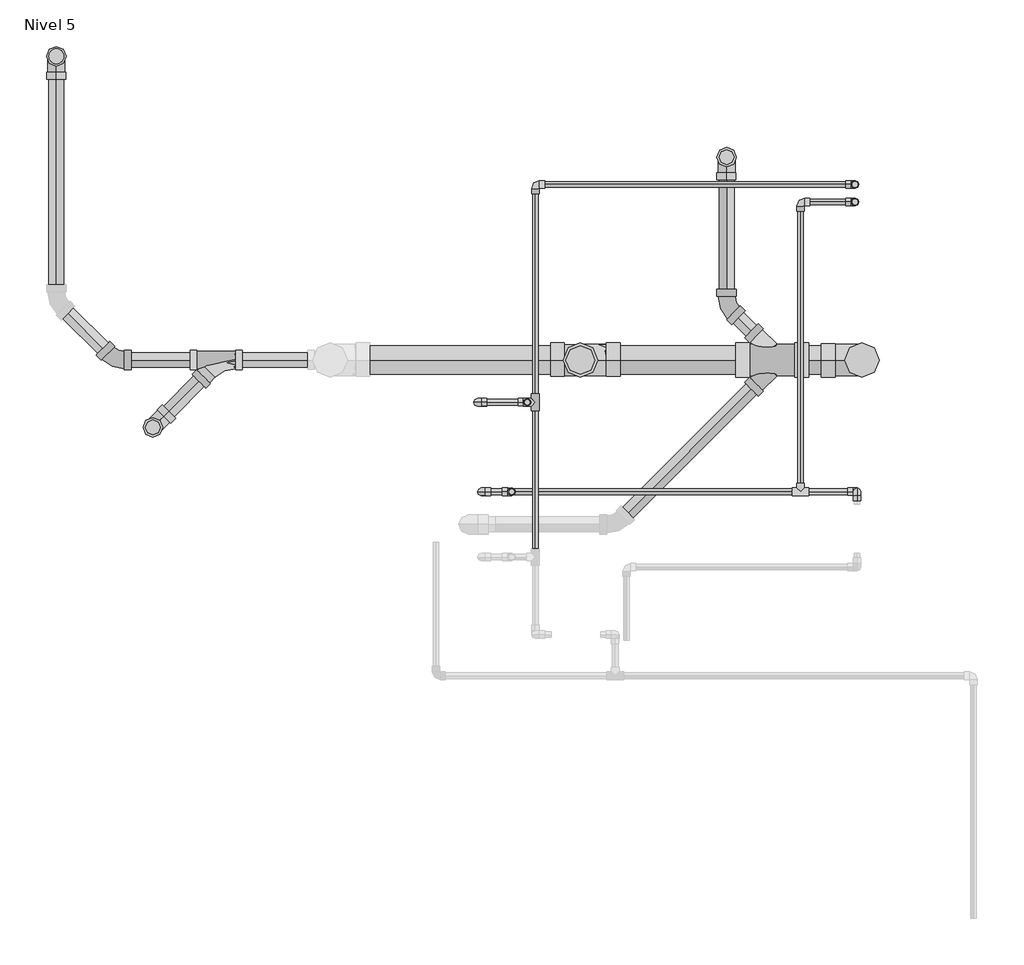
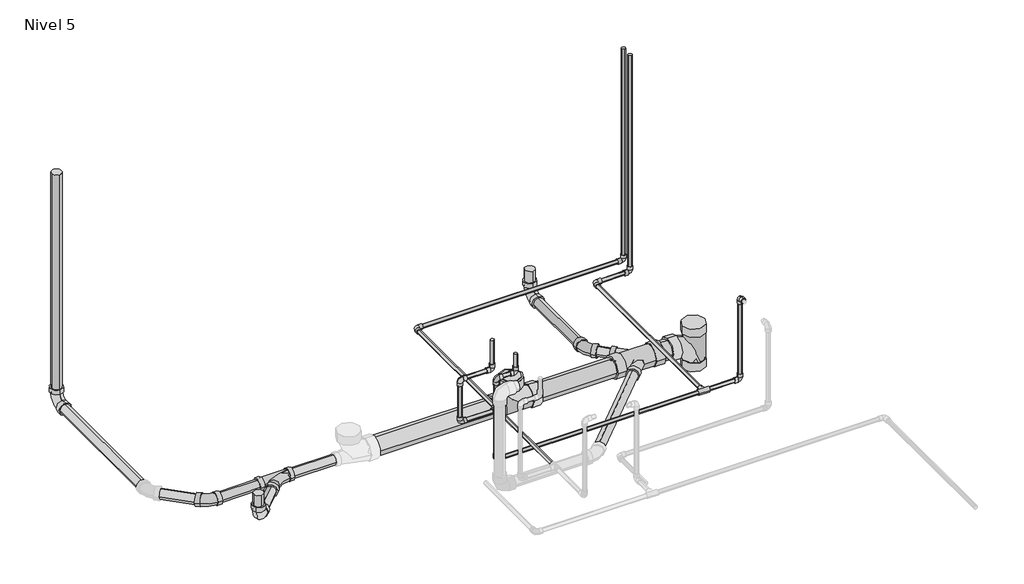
# One storey, part 6 of 6: 32 pipe segments, 23 pipe fittings.
"""IFC4 building model written with IfcOpenShell, lengths in millimetres."""

from ifc_helpers import new_model, si_unit, point, frame, frame_2d, origin, place, context, project, spatial, circle_curve, trimmed, segment, composite_curve, outline, extrude, transform, mapped, element, save
from components import pipe_fitting_ab418b84, pipe_fitting_0163322b, pipe_fitting_2a8dfbef, pipe_fitting_815a0334, m_codo_pvc_serie_40_9ad74631, m_codo_pvc_serie_40_ba05d404, m_codo_pvc_serie_40_dwv1_5c0ec739, m_codo_pvc_serie_40_dwv1_6f1a2495

model = new_model("IFC4")

# Units and contexts
model_context = context("Model", 3, world=origin())
ifc_project = project(units=[si_unit("LENGTHUNIT", "METRE", prefix="MILLI")], contexts=[model_context])

# Site, building, storey
site = spatial("IfcSite", under=ifc_project)
building = spatial("IfcBuilding", under=site)
storey = spatial("IfcBuildingStorey", under=building, Name="Nivel 5", Elevation=10750.0)

# Pipe fittings
placement = place(None, origin())
pipe_fitting_shape = pipe_fitting_ab418b84(model_context)
element("IfcPipeFitting", 1, ObjectType="M_Te - PVC - Serie 40 : Estándar", at=placement, inside=storey, context=model_context, shape_type="MappedRepresentation", body=[
    mapped(pipe_fitting_shape, transform((4675.7909326, 16338.1215351, 10700.0), x_axis=(0.0, -1.0, 0.0), y_axis=(1.0, 0.0, 0.0), z_axis=(0.0, 0.0, 1.0))),
])
element("IfcPipeFitting", 2, ObjectType="M_Te - PVC - Serie 40 : Estándar", at=placement, inside=storey, context=model_context, shape_type="MappedRepresentation", body=[
    mapped(pipe_fitting_shape, transform((5638.3695091, 16013.3784167, 10670.0), x_axis=(-1.0, 0.0, 0.0), y_axis=(0.0, -1.0, 0.0), z_axis=(0.0, 0.0, 1.0))),
])
pipe_fitting_2_shape = pipe_fitting_0163322b(model_context)
element("IfcPipeFitting", 3, ObjectType="M_Sanitario con te de reducción - PVC - Serie 40 - DWV : Estándar", at=placement, inside=storey, context=model_context, shape_type="MappedRepresentation", body=[
    mapped(pipe_fitting_2_shape, transform((3531.9945304, 16491.6039726, 10600.0), x_axis=(-1.0, 0.0, 0.0), y_axis=(0.0, 1.0, 0.0), z_axis=(0.0, 0.0, -1.0))),
])
pipe_fitting_3_shape = pipe_fitting_2a8dfbef(model_context)
element("IfcPipeFitting", 4, ObjectType="M_Sanitario con te de reducción - PVC - Serie 40 - DWV : Estándar", at=placement, inside=storey, context=model_context, shape_type="MappedRepresentation", body=[
    mapped(pipe_fitting_3_shape, transform((4839.2491598, 16491.6039726, 10600.0), x_axis=(-1.0, 0.0, 0.0), y_axis=(0.0, 0.0, -1.0), z_axis=(0.0, -1.0, 0.0))),
])
element("IfcPipeFitting", 5, ObjectType="M_Sanitario con te de reducción - PVC - Serie 40 - DWV : Estándar", at=placement, inside=storey, context=model_context, shape_type="MappedRepresentation", body=[
    mapped(pipe_fitting_3_shape, transform((5860.8695091, 16491.6039726, 10600.0), x_axis=(0.0, 0.0, 1.0), y_axis=(1.0, 0.0, 0.0), z_axis=(0.0, 1.0, 0.0))),
])
pipe_fitting_4_shape = pipe_fitting_815a0334(model_context)
element("IfcPipeFitting", 6, ObjectType="M_Sanitario con te doble con reducción - PVC - Serie 40 - DWV : Estándar", at=placement, inside=storey, context=model_context, shape_type="MappedRepresentation", body=[
    mapped(pipe_fitting_4_shape, transform((5565.9253466, 16491.6039726, 10600.0), x_axis=(-1.0, 0.0, 0.0), y_axis=(0.0, 1.0, 0.0), z_axis=(0.0, 0.0, -1.0))),
])
m_codo_pvc_serie_40_shape = m_codo_pvc_serie_40_9ad74631(model_context)
element("IfcPipeFitting", 7, ObjectType="M_Codo - PVC - Serie 40 : Estándar", at=placement, inside=storey, context=model_context, shape_type="MappedRepresentation", body=[
    mapped(m_codo_pvc_serie_40_shape, transform((4646.2723463, 16338.1215351, 10950.0), x_axis=(0.0, 0.0, -1.0), y_axis=(-1.0, 0.0, 0.0), z_axis=(0.0, 1.0, 0.0))),
])
element("IfcPipeFitting", 8, ObjectType="M_Codo - PVC - Serie 40 : Estándar", at=placement, inside=storey, context=model_context, shape_type="MappedRepresentation", body=[
    mapped(m_codo_pvc_serie_40_shape, transform((4466.2723463, 16338.1215351, 10950.0), x_axis=(-1.0, 0.0, 0.0), y_axis=(0.0, 0.0, -1.0), z_axis=(0.0, -1.0, 0.0))),
])
element("IfcPipeFitting", 9, ObjectType="M_Codo - PVC - Serie 40 : Estándar", at=placement, inside=storey, context=model_context, shape_type="MappedRepresentation", body=[
    mapped(m_codo_pvc_serie_40_shape, transform((4466.2723463, 16338.1215351, 10700.0), x_axis=(0.0, 0.0, -1.0), y_axis=(1.0, 0.0, 0.0), z_axis=(0.0, -1.0, 0.0))),
])
element("IfcPipeFitting", 10, ObjectType="M_Codo - PVC - Serie 40 : Estándar", at=placement, inside=storey, context=model_context, shape_type="MappedRepresentation", body=[
    mapped(m_codo_pvc_serie_40_shape, transform((4675.7909326, 17128.5816914, 10700.0), x_axis=(-1.0, 0.0, 0.0), y_axis=(0.0, -1.0, 0.0), z_axis=(0.0, 0.0, 1.0))),
])
element("IfcPipeFitting", 11, ObjectType="M_Codo - PVC - Serie 40 : Estándar", at=placement, inside=storey, context=model_context, shape_type="MappedRepresentation", body=[
    mapped(m_codo_pvc_serie_40_shape, transform((5835.7909326, 17128.5816914, 10700.0), x_axis=(1.0, 0.0, 0.0), y_axis=(0.0, 0.0, 1.0), z_axis=(0.0, -1.0, 0.0))),
])
element("IfcPipeFitting", 12, ObjectType="M_Codo - PVC - Serie 40 : Estándar", at=placement, inside=storey, context=model_context, shape_type="MappedRepresentation", body=[
    mapped(m_codo_pvc_serie_40_shape, transform((5843.3695091, 16013.3784167, 11150.0), x_axis=(0.0, 1.0, 0.0), y_axis=(0.0, 0.0, -1.0), z_axis=(-1.0, 0.0, 0.0))),
])
element("IfcPipeFitting", 13, ObjectType="M_Codo - PVC - Serie 40 : Estándar", at=placement, inside=storey, context=model_context, shape_type="MappedRepresentation", body=[
    mapped(m_codo_pvc_serie_40_shape, transform((5843.3695091, 16013.3784167, 10670.0), x_axis=(0.0, 0.0, -1.0), y_axis=(-1.0, 0.0, 0.0), z_axis=(0.0, 1.0, 0.0))),
])
element("IfcPipeFitting", 14, ObjectType="M_Codo - PVC - Serie 40 : Estándar", at=placement, inside=storey, context=model_context, shape_type="MappedRepresentation", body=[
    mapped(m_codo_pvc_serie_40_shape, transform((5638.3695091, 17065.0892611, 10670.0), x_axis=(-1.0, 0.0, 0.0), y_axis=(0.0, -1.0, 0.0), z_axis=(0.0, 0.0, 1.0))),
])
element("IfcPipeFitting", 15, ObjectType="M_Codo - PVC - Serie 40 : Estándar", at=placement, inside=storey, context=model_context, shape_type="MappedRepresentation", body=[
    mapped(m_codo_pvc_serie_40_shape, transform((5835.8695091, 17065.0892611, 10670.0), x_axis=(1.0, 0.0, 0.0), y_axis=(0.0, 0.0, 1.0), z_axis=(0.0, -1.0, 0.0))),
])
element("IfcPipeFitting", 16, ObjectType="M_Codo - PVC - Serie 40 : Estándar", at=placement, inside=storey, context=model_context, shape_type="MappedRepresentation", body=[
    mapped(m_codo_pvc_serie_40_shape, transform((4479.8538958, 16013.3784167, 10670.0), x_axis=(0.0, 0.0, -1.0), y_axis=(1.0, 0.0, 0.0), z_axis=(0.0, -1.0, 0.0))),
])
m_codo_pvc_serie_40_2_shape = m_codo_pvc_serie_40_ba05d404(model_context)
element("IfcPipeFitting", 17, ObjectType="M_Codo - PVC - Serie 40 : Estándar", at=placement, inside=storey, context=model_context, shape_type="MappedRepresentation", body=[
    mapped(m_codo_pvc_serie_40_2_shape, transform((4589.8538958, 16013.3784167, 11150.0), x_axis=(0.0, 0.0, -1.0), y_axis=(1.0, 0.0, 0.0), z_axis=(0.0, -1.0, 0.0))),
])
element("IfcPipeFitting", 18, ObjectType="M_Codo - PVC - Serie 40 : Estándar", at=placement, inside=storey, context=model_context, shape_type="MappedRepresentation", body=[
    mapped(m_codo_pvc_serie_40_2_shape, transform((4479.8538958, 16013.3784167, 11150.0), x_axis=(-1.0, 0.0, 0.0), y_axis=(0.0, 0.0, 1.0), z_axis=(0.0, 1.0, 0.0))),
])
m_codo_pvc_serie_40_dwv1_shape = m_codo_pvc_serie_40_dwv1_5c0ec739(model_context)
element("IfcPipeFitting", 19, ObjectType="M_Codo - PVC - Serie 40 - DWV1 : Estándar 2", at=placement, inside=storey, context=model_context, shape_type="MappedRepresentation", body=[
    mapped(m_codo_pvc_serie_40_dwv1_shape, transform((2937.3500424, 17593.736007, 10600.0), x_axis=(0.0, 1.0, 0.0), y_axis=(0.0, 0.0, 1.0), z_axis=(1.0, 0.0, 0.0))),
])
element("IfcPipeFitting", 20, ObjectType="M_Codo - PVC - Serie 40 - DWV1 : Estándar 2", at=placement, inside=storey, context=model_context, shape_type="MappedRepresentation", body=[
    mapped(m_codo_pvc_serie_40_dwv1_shape, transform((3287.4758347, 16247.0852769, 10600.0), x_axis=(-0.7071067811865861, -0.7071067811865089, 0.0), y_axis=(0.0, 0.0, 1.0), z_axis=(-0.7071067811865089, 0.7071067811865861, 0.0))),
])
element("IfcPipeFitting", 21, ObjectType="M_Codo - PVC - Serie 40 - DWV1 : Estándar 2", at=placement, inside=storey, context=model_context, shape_type="MappedRepresentation", body=[
    mapped(m_codo_pvc_serie_40_dwv1_shape, transform((5369.9298773, 17227.599442, 10600.0), x_axis=(0.0, 1.0, 0.0), y_axis=(0.0, 0.0, 1.0), z_axis=(1.0, 0.0, 0.0))),
])
m_codo_pvc_serie_40_dwv1_2_shape = m_codo_pvc_serie_40_dwv1_6f1a2495(model_context)
element("IfcPipeFitting", 22, ObjectType="M_Codo - PVC - Serie 40 - DWV1 : Estándar 2", at=placement, inside=storey, context=model_context, shape_type="MappedRepresentation", body=[
    mapped(m_codo_pvc_serie_40_dwv1_2_shape, transform((3149.4820768, 16491.6039726, 10600.0), x_axis=(0.707106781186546, -0.7071067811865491, 0.0), y_axis=(0.7071067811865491, 0.707106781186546, 0.0), z_axis=(0.0, 0.0, 1.0))),
])
element("IfcPipeFitting", 23, ObjectType="M_Codo - PVC - Serie 40 - DWV1 : Estándar 2", at=placement, inside=storey, context=model_context, shape_type="MappedRepresentation", body=[
    mapped(m_codo_pvc_serie_40_dwv1_2_shape, transform((5369.9298773, 16687.599442, 10600.0), x_axis=(0.0, -1.0, 0.0), y_axis=(1.0, 0.0, 0.0), z_axis=(0.0, 0.0, 1.0))),
])

# Pipe segments
element("IfcPipeSegment", 24, ObjectType="Tuberia PVC Agua Fria", at=placement, inside=storey, context=model_context, shape_type="SweptSolid", body=[
    extrude(outline(composite_curve([segment(trimmed(circle_curve(frame_2d((16338.1215351, 10950.0)), 10.31875), [point((16348.4402851, 10950.0))], [point((16338.1215351, 10939.68125))], False, "CARTESIAN"), True, "CONTINUOUS"), segment(trimmed(circle_curve(frame_2d((16338.1215351, 10950.0)), 10.31875), [point((16338.1215351, 10939.68125))], [point((16327.8027851, 10950.0))], False, "CARTESIAN"), True, "CONTINUOUS"), segment(trimmed(circle_curve(frame_2d((16338.1215351, 10950.0)), 10.31875), [point((16327.8027851, 10950.0))], [point((16338.1215351, 10960.31875))], False, "CARTESIAN"), True, "CONTINUOUS"), segment(trimmed(circle_curve(frame_2d((16338.1215351, 10950.0)), 10.31875), [point((16338.1215351, 10960.31875))], [point((16348.4402851, 10950.0))], False, "CARTESIAN"), True, "CONTINUOUS")], self_intersect=False)), frame((4499.6733463, 0.0, 0.0), z_axis=(1.0, 0.0, 0.0), x_axis=(0.0, 1.0, 0.0)), (0.0, 0.0, 1.0), 113.198),
])
element("IfcPipeSegment", 25, ObjectType="Tuberia PVC Agua Fria", at=placement, inside=storey, context=model_context, shape_type="SweptSolid", body=[
    extrude(outline(composite_curve([segment(trimmed(circle_curve(frame_2d((4646.2723463, 16338.1215351)), 10.31875), [point((4656.5910963, 16338.1215351))], [point((4646.2723463, 16327.8027851))], False, "CARTESIAN"), True, "CONTINUOUS"), segment(trimmed(circle_curve(frame_2d((4646.2723463, 16338.1215351)), 10.31875), [point((4646.2723463, 16327.8027851))], [point((4635.9535963, 16338.1215351))], False, "CARTESIAN"), True, "CONTINUOUS"), segment(trimmed(circle_curve(frame_2d((4646.2723463, 16338.1215351)), 10.31875), [point((4635.9535963, 16338.1215351))], [point((4646.2723463, 16348.4402851))], False, "CARTESIAN"), True, "CONTINUOUS"), segment(trimmed(circle_curve(frame_2d((4646.2723463, 16338.1215351)), 10.31875), [point((4646.2723463, 16348.4402851))], [point((4656.5910963, 16338.1215351))], False, "CARTESIAN"), True, "CONTINUOUS")], self_intersect=False)), frame((0.0, 0.0, 10983.401), z_axis=(0.0, 0.0, 1.0), x_axis=(1.0, 0.0, 0.0)), (0.0, 0.0, 1.0), 139.7562509),
])
element("IfcPipeSegment", 26, ObjectType="Tuberia PVC Agua Fria", at=placement, inside=storey, context=model_context, shape_type="SweptSolid", body=[
    extrude(outline(composite_curve([segment(trimmed(circle_curve(frame_2d((4466.2723463, 16338.1215351)), 10.31875), [point((4476.5910963, 16338.1215351))], [point((4466.2723463, 16327.8027851))], False, "CARTESIAN"), True, "CONTINUOUS"), segment(trimmed(circle_curve(frame_2d((4466.2723463, 16338.1215351)), 10.31875), [point((4466.2723463, 16327.8027851))], [point((4455.9535963, 16338.1215351))], False, "CARTESIAN"), True, "CONTINUOUS"), segment(trimmed(circle_curve(frame_2d((4466.2723463, 16338.1215351)), 10.31875), [point((4455.9535963, 16338.1215351))], [point((4466.2723463, 16348.4402851))], False, "CARTESIAN"), True, "CONTINUOUS"), segment(trimmed(circle_curve(frame_2d((4466.2723463, 16338.1215351)), 10.31875), [point((4466.2723463, 16348.4402851))], [point((4476.5910963, 16338.1215351))], False, "CARTESIAN"), True, "CONTINUOUS")], self_intersect=False)), frame((0.0, 0.0, 10733.401), z_axis=(0.0, 0.0, 1.0), x_axis=(1.0, 0.0, 0.0)), (0.0, 0.0, 1.0), 183.198),
])
element("IfcPipeSegment", 27, ObjectType="Tuberia PVC Agua Fria", at=placement, inside=storey, context=model_context, shape_type="SweptSolid", body=[
    extrude(outline(composite_curve([segment(trimmed(circle_curve(frame_2d((10700.0, 4675.7909326)), 10.31875), [point((10700.0, 4686.1096826))], [point((10710.31875, 4675.7909326))], False, "CARTESIAN"), True, "CONTINUOUS"), segment(trimmed(circle_curve(frame_2d((10700.0, 4675.7909326)), 10.31875), [point((10710.31875, 4675.7909326))], [point((10700.0, 4665.4721826))], False, "CARTESIAN"), True, "CONTINUOUS"), segment(trimmed(circle_curve(frame_2d((10700.0, 4675.7909326)), 10.31875), [point((10700.0, 4665.4721826))], [point((10689.68125, 4675.7909326))], False, "CARTESIAN"), True, "CONTINUOUS"), segment(trimmed(circle_curve(frame_2d((10700.0, 4675.7909326)), 10.31875), [point((10689.68125, 4675.7909326))], [point((10700.0, 4686.1096826))], False, "CARTESIAN"), True, "CONTINUOUS")], self_intersect=False)), frame((0.0, 16368.5816914, 0.0), z_axis=(0.0, 1.0, 0.0), x_axis=(0.0, 0.0, 1.0)), (0.0, 0.0, 1.0), 726.599),
])
element("IfcPipeSegment", 28, ObjectType="Tuberia PVC Agua Fria", at=placement, inside=storey, context=model_context, shape_type="SweptSolid", body=[
    extrude(outline(composite_curve([segment(trimmed(circle_curve(frame_2d((10700.0, 4675.7909326)), 10.31875), [point((10700.0, 4686.1096826))], [point((10710.31875, 4675.7909326))], False, "CARTESIAN"), True, "CONTINUOUS"), segment(trimmed(circle_curve(frame_2d((10700.0, 4675.7909326)), 10.31875), [point((10710.31875, 4675.7909326))], [point((10700.0, 4665.4721826))], False, "CARTESIAN"), True, "CONTINUOUS"), segment(trimmed(circle_curve(frame_2d((10700.0, 4675.7909326)), 10.31875), [point((10700.0, 4665.4721826))], [point((10689.68125, 4675.7909326))], False, "CARTESIAN"), True, "CONTINUOUS"), segment(trimmed(circle_curve(frame_2d((10700.0, 4675.7909326)), 10.31875), [point((10689.68125, 4675.7909326))], [point((10700.0, 4686.1096826))], False, "CARTESIAN"), True, "CONTINUOUS")], self_intersect=False)), frame((0.0, 15807.0817396, 0.0), z_axis=(0.0, 1.0, 0.0), x_axis=(0.0, 0.0, 1.0)), (0.0, 0.0, 1.0), 500.5796393),
])
element("IfcPipeSegment", 29, ObjectType="Tuberia PVC Agua Fria", at=placement, inside=storey, context=model_context, shape_type="SweptSolid", body=[
    extrude(outline(composite_curve([segment(trimmed(circle_curve(frame_2d((16338.1215351, 10700.0)), 10.31875), [point((16327.8027851, 10700.0))], [point((16338.1215351, 10710.31875))], False, "CARTESIAN"), True, "CONTINUOUS"), segment(trimmed(circle_curve(frame_2d((16338.1215351, 10700.0)), 10.31875), [point((16338.1215351, 10710.31875))], [point((16348.4402851, 10700.0))], False, "CARTESIAN"), True, "CONTINUOUS"), segment(trimmed(circle_curve(frame_2d((16338.1215351, 10700.0)), 10.31875), [point((16348.4402851, 10700.0))], [point((16338.1215351, 10689.68125))], False, "CARTESIAN"), True, "CONTINUOUS"), segment(trimmed(circle_curve(frame_2d((16338.1215351, 10700.0)), 10.31875), [point((16338.1215351, 10689.68125))], [point((16327.8027851, 10700.0))], False, "CARTESIAN"), True, "CONTINUOUS")], self_intersect=False)), frame((4499.6733463, 0.0, 0.0), z_axis=(1.0, 0.0, 0.0), x_axis=(0.0, 1.0, 0.0)), (0.0, 0.0, 1.0), 145.6574301),
])
element("IfcPipeSegment", 30, ObjectType="Tuberia PVC Agua Fria", at=placement, inside=storey, context=model_context, shape_type="SweptSolid", body=[
    extrude(outline(composite_curve([segment(trimmed(circle_curve(frame_2d((17128.5816914, 10700.0)), 10.31875), [point((17118.2629414, 10700.0))], [point((17128.5816914, 10710.31875))], False, "CARTESIAN"), True, "CONTINUOUS"), segment(trimmed(circle_curve(frame_2d((17128.5816914, 10700.0)), 10.31875), [point((17128.5816914, 10710.31875))], [point((17138.9004414, 10700.0))], False, "CARTESIAN"), True, "CONTINUOUS"), segment(trimmed(circle_curve(frame_2d((17128.5816914, 10700.0)), 10.31875), [point((17138.9004414, 10700.0))], [point((17128.5816914, 10689.68125))], False, "CARTESIAN"), True, "CONTINUOUS"), segment(trimmed(circle_curve(frame_2d((17128.5816914, 10700.0)), 10.31875), [point((17128.5816914, 10689.68125))], [point((17118.2629414, 10700.0))], False, "CARTESIAN"), True, "CONTINUOUS")], self_intersect=False)), frame((4709.1919326, 0.0, 0.0), z_axis=(1.0, 0.0, 0.0), x_axis=(0.0, 1.0, 0.0)), (0.0, 0.0, 1.0), 1093.198),
])
element("IfcPipeSegment", 31, ObjectType="Tuberia PVC Agua Fria", at=placement, inside=storey, context=model_context, shape_type="SweptSolid", body=[
    extrude(outline(composite_curve([segment(trimmed(circle_curve(frame_2d((5835.7909326, 17128.5816914)), 10.31875), [point((5846.1096826, 17128.5816914))], [point((5835.7909326, 17118.2629414))], False, "CARTESIAN"), True, "CONTINUOUS"), segment(trimmed(circle_curve(frame_2d((5835.7909326, 17128.5816914)), 10.31875), [point((5835.7909326, 17118.2629414))], [point((5825.4721826, 17128.5816914))], False, "CARTESIAN"), True, "CONTINUOUS"), segment(trimmed(circle_curve(frame_2d((5835.7909326, 17128.5816914)), 10.31875), [point((5825.4721826, 17128.5816914))], [point((5835.7909326, 17138.9004414))], False, "CARTESIAN"), True, "CONTINUOUS"), segment(trimmed(circle_curve(frame_2d((5835.7909326, 17128.5816914)), 10.31875), [point((5835.7909326, 17138.9004414))], [point((5846.1096826, 17128.5816914))], False, "CARTESIAN"), True, "CONTINUOUS")], self_intersect=False)), frame((0.0, 0.0, 10733.401), z_axis=(0.0, 0.0, 1.0), x_axis=(1.0, 0.0, 0.0)), (0.0, 0.0, 1.0), 1216.599),
])
element("IfcPipeSegment", 32, ObjectType="Tuberia PVC VENTILACION", at=placement, inside=storey, context=model_context, shape_type="SweptSolid", body=[
    extrude(outline(composite_curve([segment(trimmed(circle_curve(frame_2d((16491.6039726, 10600.0)), 26.9875), [point((16464.6164726, 10600.0))], [point((16491.6039726, 10626.9875))], False, "CARTESIAN"), True, "CONTINUOUS"), segment(trimmed(circle_curve(frame_2d((16491.6039726, 10600.0)), 26.9875), [point((16491.6039726, 10626.9875))], [point((16518.5914726, 10600.0))], False, "CARTESIAN"), True, "CONTINUOUS"), segment(trimmed(circle_curve(frame_2d((16491.6039726, 10600.0)), 26.9875), [point((16518.5914726, 10600.0))], [point((16491.6039726, 10573.0125))], False, "CARTESIAN"), True, "CONTINUOUS"), segment(trimmed(circle_curve(frame_2d((16491.6039726, 10600.0)), 26.9875), [point((16491.6039726, 10573.0125))], [point((16464.6164726, 10600.0))], False, "CARTESIAN"), True, "CONTINUOUS")], self_intersect=False)), frame((3209.9102643, 0.0, 0.0), z_axis=(1.0, 0.0, 0.0), x_axis=(0.0, 1.0, 0.0)), (0.0, 0.0, 1.0), 213.2466594),
])
element("IfcPipeSegment", 33, ObjectType="Tuberia PVC VENTILACION", at=placement, inside=storey, context=model_context, shape_type="SweptSolid", body=[
    extrude(outline(composite_curve([segment(trimmed(circle_curve(frame_2d((0.0, 26.9875)), 26.9875), [point((26.9875001, 26.9875))], [point((0.0, 0.0))], False, "CARTESIAN"), True, "CONTINUOUS"), segment(trimmed(circle_curve(frame_2d((0.0, 26.9875)), 26.9875), [point((0.0, 0.0))], [point((-26.9875001, 26.9875))], False, "CARTESIAN"), True, "CONTINUOUS"), segment(trimmed(circle_curve(frame_2d((0.0, 26.9875)), 26.9875), [point((-26.9875001, 26.9875))], [point((0.0, 53.975))], False, "CARTESIAN"), True, "CONTINUOUS"), segment(trimmed(circle_curve(frame_2d((0.0, 26.9875)), 26.9875), [point((0.0, 53.975))], [point((26.9875001, 26.9875))], False, "CARTESIAN"), True, "CONTINUOUS")], self_intersect=False)), frame((3106.7528956, 16534.3331538, 10626.9875), z_axis=(-0.7071067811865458, 0.7071067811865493, 0.0), x_axis=(0.7071067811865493, 0.7071067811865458, 0.0)), (0.0, 0.0, 1.0), 179.143625),
])
element("IfcPipeSegment", 34, ObjectType="Tuberia PVC VENTILACION", at=placement, inside=storey, context=model_context, shape_type="SweptSolid", body=[
    extrude(outline(composite_curve([segment(trimmed(circle_curve(frame_2d((10600.0, 2937.3500424)), 26.9875), [point((10600.0, 2964.3375424))], [point((10626.9875, 2937.3500424))], False, "CARTESIAN"), True, "CONTINUOUS"), segment(trimmed(circle_curve(frame_2d((10600.0, 2937.3500424)), 26.9875), [point((10626.9875, 2937.3500424))], [point((10600.0, 2910.3625424))], False, "CARTESIAN"), True, "CONTINUOUS"), segment(trimmed(circle_curve(frame_2d((10600.0, 2937.3500424)), 26.9875), [point((10600.0, 2910.3625424))], [point((10573.0125, 2937.3500424))], False, "CARTESIAN"), True, "CONTINUOUS"), segment(trimmed(circle_curve(frame_2d((10600.0, 2937.3500424)), 26.9875), [point((10573.0125, 2937.3500424))], [point((10600.0, 2964.3375424))], False, "CARTESIAN"), True, "CONTINUOUS")], self_intersect=False)), frame((0.0, 16764.1641945, 0.0), z_axis=(0.0, 1.0, 0.0), x_axis=(0.0, 0.0, 1.0)), (0.0, 0.0, 1.0), 747.02975),
])
element("IfcPipeSegment", 35, ObjectType="Tuberia PVC VENTILACION", at=placement, inside=storey, context=model_context, shape_type="SweptSolid", body=[
    extrude(outline(composite_curve([segment(trimmed(circle_curve(frame_2d((2937.3500424, 17593.736007)), 26.9875), [point((2964.3375424, 17593.736007))], [point((2937.3500424, 17566.748507))], False, "CARTESIAN"), True, "CONTINUOUS"), segment(trimmed(circle_curve(frame_2d((2937.3500424, 17593.736007)), 26.9875), [point((2937.3500424, 17566.748507))], [point((2910.3625424, 17593.736007))], False, "CARTESIAN"), True, "CONTINUOUS"), segment(trimmed(circle_curve(frame_2d((2937.3500424, 17593.736007)), 26.9875), [point((2910.3625424, 17593.736007))], [point((2937.3500424, 17620.723507))], False, "CARTESIAN"), True, "CONTINUOUS"), segment(trimmed(circle_curve(frame_2d((2937.3500424, 17593.736007)), 26.9875), [point((2937.3500424, 17620.723507))], [point((2964.3375424, 17593.736007))], False, "CARTESIAN"), True, "CONTINUOUS")], self_intersect=False)), frame((0.0, 0.0, 10682.5420625), z_axis=(0.0, 0.0, 1.0), x_axis=(1.0, 0.0, 0.0)), (0.0, 0.0, 1.0), 1267.4579375),
])
element("IfcPipeSegment", 36, ObjectType="Tuberia PVC Agua Caliente", at=placement, inside=storey, context=model_context, shape_type="SweptSolid", body=[
    extrude(outline(composite_curve([segment(trimmed(circle_curve(frame_2d((16013.3784167, 10670.0)), 10.31875), [point((16023.6971667, 10670.0))], [point((16013.3784167, 10659.68125))], False, "CARTESIAN"), True, "CONTINUOUS"), segment(trimmed(circle_curve(frame_2d((16013.3784167, 10670.0)), 10.31875), [point((16013.3784167, 10659.68125))], [point((16003.0596667, 10670.0))], False, "CARTESIAN"), True, "CONTINUOUS"), segment(trimmed(circle_curve(frame_2d((16013.3784167, 10670.0)), 10.31875), [point((16003.0596667, 10670.0))], [point((16013.3784167, 10680.31875))], False, "CARTESIAN"), True, "CONTINUOUS"), segment(trimmed(circle_curve(frame_2d((16013.3784167, 10670.0)), 10.31875), [point((16013.3784167, 10680.31875))], [point((16023.6971667, 10670.0))], False, "CARTESIAN"), True, "CONTINUOUS")], self_intersect=False)), frame((5668.8296654, 0.0, 0.0), z_axis=(1.0, 0.0, 0.0), x_axis=(0.0, 1.0, 0.0)), (0.0, 0.0, 1.0), 141.1388438),
])
element("IfcPipeSegment", 37, ObjectType="Tuberia PVC Agua Caliente", at=placement, inside=storey, context=model_context, shape_type="SweptSolid", body=[
    extrude(outline(composite_curve([segment(trimmed(circle_curve(frame_2d((5843.3695091, 16013.3784167)), 10.31875), [point((5853.6882591, 16013.3784167))], [point((5843.3695091, 16003.0596667))], False, "CARTESIAN"), True, "CONTINUOUS"), segment(trimmed(circle_curve(frame_2d((5843.3695091, 16013.3784167)), 10.31875), [point((5843.3695091, 16003.0596667))], [point((5833.0507591, 16013.3784167))], False, "CARTESIAN"), True, "CONTINUOUS"), segment(trimmed(circle_curve(frame_2d((5843.3695091, 16013.3784167)), 10.31875), [point((5833.0507591, 16013.3784167))], [point((5843.3695091, 16023.6971667))], False, "CARTESIAN"), True, "CONTINUOUS"), segment(trimmed(circle_curve(frame_2d((5843.3695091, 16013.3784167)), 10.31875), [point((5843.3695091, 16023.6971667))], [point((5853.6882591, 16013.3784167))], False, "CARTESIAN"), True, "CONTINUOUS")], self_intersect=False)), frame((0.0, 0.0, 10703.401), z_axis=(0.0, 0.0, 1.0), x_axis=(1.0, 0.0, 0.0)), (0.0, 0.0, 1.0), 413.198),
])
element("IfcPipeSegment", 38, ObjectType="Tuberia PVC Agua Caliente", at=placement, inside=storey, context=model_context, shape_type="SweptSolid", body=[
    extrude(outline(composite_curve([segment(trimmed(circle_curve(frame_2d((10670.0, 5638.3695091)), 10.31875), [point((10670.0, 5648.6882591))], [point((10680.31875, 5638.3695091))], False, "CARTESIAN"), True, "CONTINUOUS"), segment(trimmed(circle_curve(frame_2d((10670.0, 5638.3695091)), 10.31875), [point((10680.31875, 5638.3695091))], [point((10670.0, 5628.0507591))], False, "CARTESIAN"), True, "CONTINUOUS"), segment(trimmed(circle_curve(frame_2d((10670.0, 5638.3695091)), 10.31875), [point((10670.0, 5628.0507591))], [point((10659.68125, 5638.3695091))], False, "CARTESIAN"), True, "CONTINUOUS"), segment(trimmed(circle_curve(frame_2d((10670.0, 5638.3695091)), 10.31875), [point((10659.68125, 5638.3695091))], [point((10670.0, 5648.6882591))], False, "CARTESIAN"), True, "CONTINUOUS")], self_intersect=False)), frame((0.0, 16043.8385729, 0.0), z_axis=(0.0, 1.0, 0.0), x_axis=(0.0, 0.0, 1.0)), (0.0, 0.0, 1.0), 987.8496882),
])
element("IfcPipeSegment", 39, ObjectType="Tuberia PVC Agua Caliente", at=placement, inside=storey, context=model_context, shape_type="SweptSolid", body=[
    extrude(outline(composite_curve([segment(trimmed(circle_curve(frame_2d((17065.0892611, 10670.0)), 10.31875), [point((17054.7705111, 10670.0))], [point((17065.0892611, 10680.31875))], False, "CARTESIAN"), True, "CONTINUOUS"), segment(trimmed(circle_curve(frame_2d((17065.0892611, 10670.0)), 10.31875), [point((17065.0892611, 10680.31875))], [point((17075.4080111, 10670.0))], False, "CARTESIAN"), True, "CONTINUOUS"), segment(trimmed(circle_curve(frame_2d((17065.0892611, 10670.0)), 10.31875), [point((17075.4080111, 10670.0))], [point((17065.0892611, 10659.68125))], False, "CARTESIAN"), True, "CONTINUOUS"), segment(trimmed(circle_curve(frame_2d((17065.0892611, 10670.0)), 10.31875), [point((17065.0892611, 10659.68125))], [point((17054.7705111, 10670.0))], False, "CARTESIAN"), True, "CONTINUOUS")], self_intersect=False)), frame((5671.7705091, 0.0, 0.0), z_axis=(1.0, 0.0, 0.0), x_axis=(0.0, 1.0, 0.0)), (0.0, 0.0, 1.0), 130.698),
])
element("IfcPipeSegment", 40, ObjectType="Tuberia PVC Agua Caliente", at=placement, inside=storey, context=model_context, shape_type="SweptSolid", body=[
    extrude(outline(composite_curve([segment(trimmed(circle_curve(frame_2d((5835.8695091, 17065.0892611)), 10.31875), [point((5846.1882591, 17065.0892611))], [point((5835.8695091, 17054.7705111))], False, "CARTESIAN"), True, "CONTINUOUS"), segment(trimmed(circle_curve(frame_2d((5835.8695091, 17065.0892611)), 10.31875), [point((5835.8695091, 17054.7705111))], [point((5825.5507591, 17065.0892611))], False, "CARTESIAN"), True, "CONTINUOUS"), segment(trimmed(circle_curve(frame_2d((5835.8695091, 17065.0892611)), 10.31875), [point((5825.5507591, 17065.0892611))], [point((5835.8695091, 17075.4080111))], False, "CARTESIAN"), True, "CONTINUOUS"), segment(trimmed(circle_curve(frame_2d((5835.8695091, 17065.0892611)), 10.31875), [point((5835.8695091, 17075.4080111))], [point((5846.1882591, 17065.0892611))], False, "CARTESIAN"), True, "CONTINUOUS")], self_intersect=False)), frame((0.0, 0.0, 10703.401), z_axis=(0.0, 0.0, 1.0), x_axis=(1.0, 0.0, 0.0)), (0.0, 0.0, 1.0), 1246.599),
])
element("IfcPipeSegment", 41, ObjectType="Tuberia PVC Agua Caliente", at=placement, inside=storey, context=model_context, shape_type="SweptSolid", body=[
    extrude(outline(composite_curve([segment(trimmed(circle_curve(frame_2d((16013.3784167, 11150.0)), 10.31875), [point((16023.6971667, 11150.0))], [point((16013.3784167, 11139.68125))], False, "CARTESIAN"), True, "CONTINUOUS"), segment(trimmed(circle_curve(frame_2d((16013.3784167, 11150.0)), 10.31875), [point((16013.3784167, 11139.68125))], [point((16003.0596667, 11150.0))], False, "CARTESIAN"), True, "CONTINUOUS"), segment(trimmed(circle_curve(frame_2d((16013.3784167, 11150.0)), 10.31875), [point((16003.0596667, 11150.0))], [point((16013.3784167, 11160.31875))], False, "CARTESIAN"), True, "CONTINUOUS"), segment(trimmed(circle_curve(frame_2d((16013.3784167, 11150.0)), 10.31875), [point((16013.3784167, 11160.31875))], [point((16023.6971667, 11150.0))], False, "CARTESIAN"), True, "CONTINUOUS")], self_intersect=False)), frame((4513.2548958, 0.0, 0.0), z_axis=(1.0, 0.0, 0.0), x_axis=(0.0, 1.0, 0.0)), (0.0, 0.0, 1.0), 43.198),
])
element("IfcPipeSegment", 42, ObjectType="Tuberia PVC Agua Caliente", at=placement, inside=storey, context=model_context, shape_type="SweptSolid", body=[
    extrude(outline(composite_curve([segment(trimmed(circle_curve(frame_2d((4589.8538958, 16013.3784167)), 10.31875), [point((4600.1726458, 16013.3784167))], [point((4589.8538958, 16003.0596667))], False, "CARTESIAN"), True, "CONTINUOUS"), segment(trimmed(circle_curve(frame_2d((4589.8538958, 16013.3784167)), 10.31875), [point((4589.8538958, 16003.0596667))], [point((4579.5351458, 16013.3784167))], False, "CARTESIAN"), True, "CONTINUOUS"), segment(trimmed(circle_curve(frame_2d((4589.8538958, 16013.3784167)), 10.31875), [point((4579.5351458, 16013.3784167))], [point((4589.8538958, 16023.6971667))], False, "CARTESIAN"), True, "CONTINUOUS"), segment(trimmed(circle_curve(frame_2d((4589.8538958, 16013.3784167)), 10.31875), [point((4589.8538958, 16023.6971667))], [point((4600.1726458, 16013.3784167))], False, "CARTESIAN"), True, "CONTINUOUS")], self_intersect=False)), frame((0.0, 0.0, 11183.401), z_axis=(0.0, 0.0, 1.0), x_axis=(1.0, 0.0, 0.0)), (0.0, 0.0, 1.0), 74.0983614),
])
element("IfcPipeSegment", 43, ObjectType="Tuberia PVC Agua Caliente", at=placement, inside=storey, context=model_context, shape_type="SweptSolid", body=[
    extrude(outline(composite_curve([segment(trimmed(circle_curve(frame_2d((4479.8538958, 16013.3784167)), 10.31875), [point((4490.1726458, 16013.3784167))], [point((4479.8538958, 16003.0596667))], False, "CARTESIAN"), True, "CONTINUOUS"), segment(trimmed(circle_curve(frame_2d((4479.8538958, 16013.3784167)), 10.31875), [point((4479.8538958, 16003.0596667))], [point((4469.5351458, 16013.3784167))], False, "CARTESIAN"), True, "CONTINUOUS"), segment(trimmed(circle_curve(frame_2d((4479.8538958, 16013.3784167)), 10.31875), [point((4469.5351458, 16013.3784167))], [point((4479.8538958, 16023.6971667))], False, "CARTESIAN"), True, "CONTINUOUS"), segment(trimmed(circle_curve(frame_2d((4479.8538958, 16013.3784167)), 10.31875), [point((4479.8538958, 16023.6971667))], [point((4490.1726458, 16013.3784167))], False, "CARTESIAN"), True, "CONTINUOUS")], self_intersect=False)), frame((0.0, 0.0, 10703.401), z_axis=(0.0, 0.0, 1.0), x_axis=(1.0, 0.0, 0.0)), (0.0, 0.0, 1.0), 413.198),
])
element("IfcPipeSegment", 44, ObjectType="Tuberia PVC Agua Caliente", at=placement, inside=storey, context=model_context, shape_type="SweptSolid", body=[
    extrude(outline(composite_curve([segment(trimmed(circle_curve(frame_2d((16013.3784167, 10670.0)), 10.31875), [point((16003.0596667, 10670.0))], [point((16013.3784167, 10680.31875))], False, "CARTESIAN"), True, "CONTINUOUS"), segment(trimmed(circle_curve(frame_2d((16013.3784167, 10670.0)), 10.31875), [point((16013.3784167, 10680.31875))], [point((16023.6971667, 10670.0))], False, "CARTESIAN"), True, "CONTINUOUS"), segment(trimmed(circle_curve(frame_2d((16013.3784167, 10670.0)), 10.31875), [point((16023.6971667, 10670.0))], [point((16013.3784167, 10659.68125))], False, "CARTESIAN"), True, "CONTINUOUS"), segment(trimmed(circle_curve(frame_2d((16013.3784167, 10670.0)), 10.31875), [point((16013.3784167, 10659.68125))], [point((16003.0596667, 10670.0))], False, "CARTESIAN"), True, "CONTINUOUS")], self_intersect=False)), frame((4513.2548958, 0.0, 0.0), z_axis=(1.0, 0.0, 0.0), x_axis=(0.0, 1.0, 0.0)), (0.0, 0.0, 1.0), 1094.6544571),
])
element("IfcPipeSegment", 45, ObjectType="Tuberia PVC Sanitario", at=placement, inside=storey, context=model_context, shape_type="SweptSolid", body=[
    extrude(outline(composite_curve([segment(trimmed(circle_curve(frame_2d((4839.2491598, 16491.6039726)), 52.3875), [point((4891.6366598, 16491.6039726))], [point((4839.2491598, 16439.2164726))], False, "CARTESIAN"), True, "CONTINUOUS"), segment(trimmed(circle_curve(frame_2d((4839.2491598, 16491.6039726)), 52.3875), [point((4839.2491598, 16439.2164726))], [point((4786.8616598, 16491.6039726))], False, "CARTESIAN"), True, "CONTINUOUS"), segment(trimmed(circle_curve(frame_2d((4839.2491598, 16491.6039726)), 52.3875), [point((4786.8616598, 16491.6039726))], [point((4839.2491598, 16543.9914726))], False, "CARTESIAN"), True, "CONTINUOUS"), segment(trimmed(circle_curve(frame_2d((4839.2491598, 16491.6039726)), 52.3875), [point((4839.2491598, 16543.9914726))], [point((4891.6366598, 16491.6039726))], False, "CARTESIAN"), True, "CONTINUOUS")], self_intersect=False)), frame((0.0, 0.0, 10746.8159687), z_axis=(0.0, 0.0, 1.0), x_axis=(1.0, 0.0, 0.0)), (0.0, 0.0, 1.0), 3.1840312),
])
element("IfcPipeSegment", 46, ObjectType="Tuberia PVC Sanitario", at=placement, inside=storey, context=model_context, shape_type="SweptSolid", body=[
    extrude(outline(composite_curve([segment(trimmed(circle_curve(frame_2d((16491.6039726, 10600.0)), 52.3875), [point((16543.9914726, 10600.0))], [point((16491.6039726, 10547.6125))], False, "CARTESIAN"), True, "CONTINUOUS"), segment(trimmed(circle_curve(frame_2d((16491.6039726, 10600.0)), 52.3875), [point((16491.6039726, 10547.6125))], [point((16439.2164726, 10600.0))], False, "CARTESIAN"), True, "CONTINUOUS"), segment(trimmed(circle_curve(frame_2d((16491.6039726, 10600.0)), 52.3875), [point((16439.2164726, 10600.0))], [point((16491.6039726, 10652.3875))], False, "CARTESIAN"), True, "CONTINUOUS"), segment(trimmed(circle_curve(frame_2d((16491.6039726, 10600.0)), 52.3875), [point((16491.6039726, 10652.3875))], [point((16543.9914726, 10600.0))], False, "CARTESIAN"), True, "CONTINUOUS")], self_intersect=False)), frame((4075.306333, 0.0, 0.0), z_axis=(1.0, 0.0, 0.0), x_axis=(0.0, 1.0, 0.0)), (0.0, 0.0, 1.0), 656.1052853),
])
element("IfcPipeSegment", 47, ObjectType="Tuberia PVC Sanitario", at=placement, inside=storey, context=model_context, shape_type="SweptSolid", body=[
    extrude(outline(composite_curve([segment(trimmed(circle_curve(frame_2d((0.0, -26.9875)), 26.9875), [point((-26.9874999, -26.9875))], [point((0.0, 0.0))], False, "CARTESIAN"), True, "CONTINUOUS"), segment(trimmed(circle_curve(frame_2d((0.0, -26.9875)), 26.9875), [point((0.0, 0.0))], [point((26.9875001, -26.9875))], False, "CARTESIAN"), True, "CONTINUOUS"), segment(trimmed(circle_curve(frame_2d((0.0, -26.9875)), 26.9875), [point((26.9875001, -26.9875))], [point((0.0, -53.975))], False, "CARTESIAN"), True, "CONTINUOUS"), segment(trimmed(circle_curve(frame_2d((0.0, -26.9875)), 26.9875), [point((0.0, -53.975))], [point((-26.9874999, -26.9875))], False, "CARTESIAN"), True, "CONTINUOUS")], self_intersect=False)), frame((3345.8418868, 16305.4513291, 10573.0125), z_axis=(0.7071067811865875, 0.7071067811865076, 0.0), x_axis=(0.7071067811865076, -0.7071067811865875, 0.0)), (0.0, 0.0, 1.0), 154.4219865),
])
element("IfcPipeSegment", 48, ObjectType="Tuberia PVC Sanitario", at=placement, inside=storey, context=model_context, shape_type="SweptSolid", body=[
    extrude(outline(composite_curve([segment(trimmed(circle_curve(frame_2d((16491.6039726, 10600.0)), 26.9875), [point((16518.5914726, 10600.0))], [point((16491.6039726, 10573.0125))], False, "CARTESIAN"), True, "CONTINUOUS"), segment(trimmed(circle_curve(frame_2d((16491.6039726, 10600.0)), 26.9875), [point((16491.6039726, 10573.0125))], [point((16464.6164726, 10600.0))], False, "CARTESIAN"), True, "CONTINUOUS"), segment(trimmed(circle_curve(frame_2d((16491.6039726, 10600.0)), 26.9875), [point((16464.6164726, 10600.0))], [point((16491.6039726, 10626.9875))], False, "CARTESIAN"), True, "CONTINUOUS"), segment(trimmed(circle_curve(frame_2d((16491.6039726, 10600.0)), 26.9875), [point((16491.6039726, 10626.9875))], [point((16518.5914726, 10600.0))], False, "CARTESIAN"), True, "CONTINUOUS")], self_intersect=False)), frame((3611.9289972, 0.0, 0.0), z_axis=(1.0, 0.0, 0.0), x_axis=(0.0, 1.0, 0.0)), (0.0, 0.0, 1.0), 237.5530796),
])
element("IfcPipeSegment", 49, ObjectType="Tuberia PVC Sanitario", at=placement, inside=storey, context=model_context, shape_type="SweptSolid", body=[
    extrude(outline(composite_curve([segment(trimmed(circle_curve(frame_2d((3287.4758347, 16247.0852769)), 26.9875), [point((3260.4883347, 16247.0852769))], [point((3287.4758347, 16274.0727769))], False, "CARTESIAN"), True, "CONTINUOUS"), segment(trimmed(circle_curve(frame_2d((3287.4758347, 16247.0852769)), 26.9875), [point((3287.4758347, 16274.0727769))], [point((3314.4633347, 16247.0852769))], False, "CARTESIAN"), True, "CONTINUOUS"), segment(trimmed(circle_curve(frame_2d((3287.4758347, 16247.0852769)), 26.9875), [point((3314.4633347, 16247.0852769))], [point((3287.4758347, 16220.0977769))], False, "CARTESIAN"), True, "CONTINUOUS"), segment(trimmed(circle_curve(frame_2d((3287.4758347, 16247.0852769)), 26.9875), [point((3287.4758347, 16220.0977769))], [point((3260.4883347, 16247.0852769))], False, "CARTESIAN"), True, "CONTINUOUS")], self_intersect=False)), frame((0.0, 0.0, 10682.5420625), z_axis=(0.0, 0.0, 1.0), x_axis=(1.0, 0.0, 0.0)), (0.0, 0.0, 1.0), 67.4579375),
])
element("IfcPipeSegment", 50, ObjectType="Tuberia PVC Sanitario", at=placement, inside=storey, context=model_context, shape_type="SweptSolid", body=[
    extrude(outline(composite_curve([segment(trimmed(circle_curve(frame_2d((10600.0, 5369.9298773)), 26.9875), [point((10600.0, 5342.9423773))], [point((10573.0125, 5369.9298773))], False, "CARTESIAN"), True, "CONTINUOUS"), segment(trimmed(circle_curve(frame_2d((10600.0, 5369.9298773)), 26.9875), [point((10573.0125, 5369.9298773))], [point((10600.0, 5396.9173773))], False, "CARTESIAN"), True, "CONTINUOUS"), segment(trimmed(circle_curve(frame_2d((10600.0, 5369.9298773)), 26.9875), [point((10600.0, 5396.9173773))], [point((10626.9875, 5369.9298773))], False, "CARTESIAN"), True, "CONTINUOUS"), segment(trimmed(circle_curve(frame_2d((10600.0, 5369.9298773)), 26.9875), [point((10626.9875, 5369.9298773))], [point((10600.0, 5342.9423773))], False, "CARTESIAN"), True, "CONTINUOUS")], self_intersect=False)), frame((0.0, 16748.0276295, 0.0), z_axis=(0.0, 1.0, 0.0), x_axis=(0.0, 0.0, 1.0)), (0.0, 0.0, 1.0), 397.02975),
])
element("IfcPipeSegment", 51, ObjectType="Tuberia PVC Sanitario", at=placement, inside=storey, context=model_context, shape_type="SweptSolid", body=[
    extrude(outline(composite_curve([segment(trimmed(circle_curve(frame_2d((0.0, 26.9875)), 26.9875), [point((26.9874999, 26.9875))], [point((0.0, 0.0))], False, "CARTESIAN"), True, "CONTINUOUS"), segment(trimmed(circle_curve(frame_2d((0.0, 26.9875)), 26.9875), [point((0.0, 0.0))], [point((-26.9875001, 26.9875))], False, "CARTESIAN"), True, "CONTINUOUS"), segment(trimmed(circle_curve(frame_2d((0.0, 26.9875)), 26.9875), [point((-26.9875001, 26.9875))], [point((0.0, 53.975))], False, "CARTESIAN"), True, "CONTINUOUS"), segment(trimmed(circle_curve(frame_2d((0.0, 26.9875)), 26.9875), [point((0.0, 53.975))], [point((26.9874999, 26.9875))], False, "CARTESIAN"), True, "CONTINUOUS")], self_intersect=False)), frame((5460.0686326, 16597.4606867, 10626.9875), z_axis=(-0.7071067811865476, 0.7071067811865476, 0.0), x_axis=(0.7071067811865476, 0.7071067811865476, 0.0)), (0.0, 0.0, 1.0), 67.0472628),
])
element("IfcPipeSegment", 52, ObjectType="Tuberia PVC Sanitario", at=placement, inside=storey, context=model_context, shape_type="SweptSolid", body=[
    extrude(outline(composite_curve([segment(trimmed(circle_curve(frame_2d((5369.9298773, 17227.599442)), 26.9875), [point((5342.9423773, 17227.599442))], [point((5369.9298773, 17254.586942))], False, "CARTESIAN"), True, "CONTINUOUS"), segment(trimmed(circle_curve(frame_2d((5369.9298773, 17227.599442)), 26.9875), [point((5369.9298773, 17254.586942))], [point((5396.9173773, 17227.599442))], False, "CARTESIAN"), True, "CONTINUOUS"), segment(trimmed(circle_curve(frame_2d((5369.9298773, 17227.599442)), 26.9875), [point((5396.9173773, 17227.599442))], [point((5369.9298773, 17200.611942))], False, "CARTESIAN"), True, "CONTINUOUS"), segment(trimmed(circle_curve(frame_2d((5369.9298773, 17227.599442)), 26.9875), [point((5369.9298773, 17200.611942))], [point((5342.9423773, 17227.599442))], False, "CARTESIAN"), True, "CONTINUOUS")], self_intersect=False)), frame((0.0, 0.0, 10682.5420625), z_axis=(0.0, 0.0, 1.0), x_axis=(1.0, 0.0, 0.0)), (0.0, 0.0, 1.0), 67.4579375),
])
element("IfcPipeSegment", 53, ObjectType="Tuberia PVC Sanitario", at=placement, inside=storey, context=model_context, shape_type="SweptSolid", body=[
    extrude(outline(composite_curve([segment(trimmed(circle_curve(frame_2d((0.0, 26.9875)), 26.9875), [point((26.9875001, 26.9875))], [point((0.0, 0.0))], False, "CARTESIAN"), True, "CONTINUOUS"), segment(trimmed(circle_curve(frame_2d((0.0, 26.9875)), 26.9875), [point((0.0, 0.0))], [point((-26.9874999, 26.9875))], False, "CARTESIAN"), True, "CONTINUOUS"), segment(trimmed(circle_curve(frame_2d((0.0, 26.9875)), 26.9875), [point((-26.9874999, 26.9875))], [point((0.0, 53.975))], False, "CARTESIAN"), True, "CONTINUOUS"), segment(trimmed(circle_curve(frame_2d((0.0, 26.9875)), 26.9875), [point((0.0, 53.975))], [point((26.9875001, 26.9875))], False, "CARTESIAN"), True, "CONTINUOUS")], self_intersect=False)), frame((5012.0505551, 15937.7291812, 10626.9875), z_axis=(0.7071067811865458, 0.7071067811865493, 0.0), x_axis=(0.7071067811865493, -0.7071067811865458, 0.0)), (0.0, 0.0, 1.0), 633.5932413),
])
element("IfcPipeSegment", 54, ObjectType="Tuberia PVC Sanitario", at=placement, inside=storey, context=model_context, shape_type="SweptSolid", body=[
    extrude(outline(composite_curve([segment(trimmed(circle_curve(frame_2d((16491.6039726, 10600.0)), 52.3875), [point((16439.2164726, 10600.0))], [point((16491.6039726, 10652.3875))], False, "CARTESIAN"), True, "CONTINUOUS"), segment(trimmed(circle_curve(frame_2d((16491.6039726, 10600.0)), 52.3875), [point((16491.6039726, 10652.3875))], [point((16543.9914726, 10600.0))], False, "CARTESIAN"), True, "CONTINUOUS"), segment(trimmed(circle_curve(frame_2d((16491.6039726, 10600.0)), 52.3875), [point((16543.9914726, 10600.0))], [point((16491.6039726, 10547.6125))], False, "CARTESIAN"), True, "CONTINUOUS"), segment(trimmed(circle_curve(frame_2d((16491.6039726, 10600.0)), 52.3875), [point((16491.6039726, 10547.6125))], [point((16439.2164726, 10600.0))], False, "CARTESIAN"), True, "CONTINUOUS")], self_intersect=False)), frame((4983.1438745, 0.0, 0.0), z_axis=(1.0, 0.0, 0.0), x_axis=(0.0, 1.0, 0.0)), (0.0, 0.0, 1.0), 419.0401779),
])
element("IfcPipeSegment", 55, ObjectType="Tuberia PVC Sanitario", at=placement, inside=storey, context=model_context, shape_type="SweptSolid", body=[
    extrude(outline(composite_curve([segment(trimmed(circle_curve(frame_2d((16491.6039726, 10600.0)), 52.3875), [point((16439.2164726, 10600.0))], [point((16491.6039726, 10652.3875))], False, "CARTESIAN"), True, "CONTINUOUS"), segment(trimmed(circle_curve(frame_2d((16491.6039726, 10600.0)), 52.3875), [point((16491.6039726, 10652.3875))], [point((16543.9914726, 10600.0))], False, "CARTESIAN"), True, "CONTINUOUS"), segment(trimmed(circle_curve(frame_2d((16491.6039726, 10600.0)), 52.3875), [point((16543.9914726, 10600.0))], [point((16491.6039726, 10547.6125))], False, "CARTESIAN"), True, "CONTINUOUS"), segment(trimmed(circle_curve(frame_2d((16491.6039726, 10600.0)), 52.3875), [point((16491.6039726, 10547.6125))], [point((16439.2164726, 10600.0))], False, "CARTESIAN"), True, "CONTINUOUS")], self_intersect=False)), frame((5668.5492841, 0.0, 0.0), z_axis=(1.0, 0.0, 0.0), x_axis=(0.0, 1.0, 0.0)), (0.0, 0.0, 1.0), 45.5042563),
])

save(model, "model.ifc")
